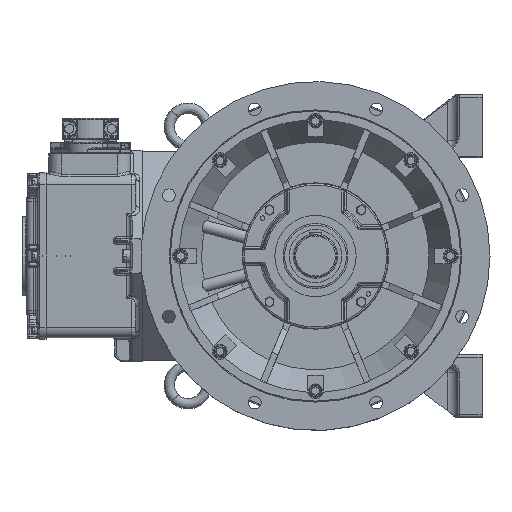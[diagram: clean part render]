
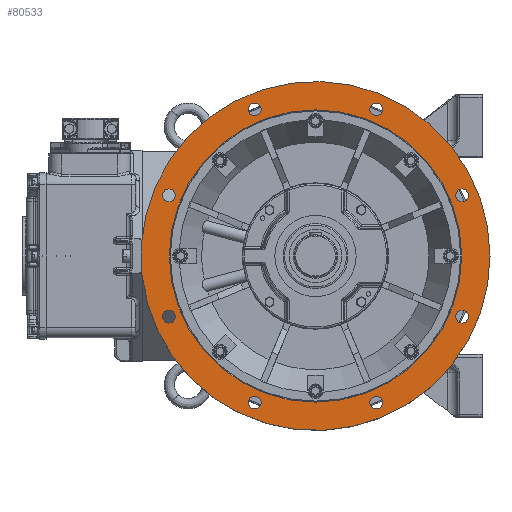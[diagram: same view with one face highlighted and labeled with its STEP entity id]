
A CAD part, left-side view. The second image highlights one B-rep face of the part: STEP entity #80533.
In plain terms, the highlighted planar face has unit normal (-1, 0, 0).
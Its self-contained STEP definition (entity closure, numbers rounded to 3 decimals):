
#19449=ORIENTED_EDGE('',*,*,#32082,.F.);
#19450=ORIENTED_EDGE('',*,*,#32084,.F.);
#19451=ORIENTED_EDGE('',*,*,#32086,.F.);
#19452=ORIENTED_EDGE('',*,*,#32088,.F.);
#19453=ORIENTED_EDGE('',*,*,#32090,.F.);
#19454=ORIENTED_EDGE('',*,*,#32092,.F.);
#19455=ORIENTED_EDGE('',*,*,#32094,.F.);
#19456=ORIENTED_EDGE('',*,*,#32096,.F.);
#19457=ORIENTED_EDGE('',*,*,#32116,.F.);
#19458=ORIENTED_EDGE('',*,*,#32117,.T.);
#32082=EDGE_CURVE('',#38969,#38969,#42816,.T.);
#32084=EDGE_CURVE('',#38971,#38971,#42818,.T.);
#32086=EDGE_CURVE('',#38973,#38973,#42820,.T.);
#32088=EDGE_CURVE('',#38975,#38975,#42822,.T.);
#32090=EDGE_CURVE('',#38977,#38977,#42824,.T.);
#32092=EDGE_CURVE('',#38979,#38979,#42826,.T.);
#32094=EDGE_CURVE('',#38981,#38981,#42828,.T.);
#32096=EDGE_CURVE('',#38983,#38983,#42830,.T.);
#32116=EDGE_CURVE('',#39003,#39003,#42850,.T.);
#32117=EDGE_CURVE('',#39004,#39004,#42851,.F.);
#38969=VERTEX_POINT('',#121616);
#38971=VERTEX_POINT('',#121621);
#38973=VERTEX_POINT('',#121626);
#38975=VERTEX_POINT('',#121631);
#38977=VERTEX_POINT('',#121636);
#38979=VERTEX_POINT('',#121641);
#38981=VERTEX_POINT('',#121646);
#38983=VERTEX_POINT('',#121651);
#39003=VERTEX_POINT('',#121709);
#39004=VERTEX_POINT('',#121711);
#42816=CIRCLE('',#85443,12.);
#42818=CIRCLE('',#85446,12.);
#42820=CIRCLE('',#85449,12.);
#42822=CIRCLE('',#85452,12.);
#42824=CIRCLE('',#85455,12.);
#42826=CIRCLE('',#85458,12.);
#42828=CIRCLE('',#85461,12.);
#42830=CIRCLE('',#85464,12.);
#42850=CIRCLE('',#85502,276.402);
#42851=CIRCLE('',#85503,330.);
#46358=EDGE_LOOP('',(#19449));
#46359=EDGE_LOOP('',(#19450));
#46360=EDGE_LOOP('',(#19451));
#46361=EDGE_LOOP('',(#19452));
#46362=EDGE_LOOP('',(#19453));
#46363=EDGE_LOOP('',(#19454));
#46364=EDGE_LOOP('',(#19455));
#46365=EDGE_LOOP('',(#19456));
#46366=EDGE_LOOP('',(#19457));
#46367=EDGE_LOOP('',(#19458));
#50438=FACE_BOUND('',#46358,.T.);
#50439=FACE_BOUND('',#46359,.T.);
#50440=FACE_BOUND('',#46360,.T.);
#50441=FACE_BOUND('',#46361,.T.);
#50442=FACE_BOUND('',#46362,.T.);
#50443=FACE_BOUND('',#46363,.T.);
#50444=FACE_BOUND('',#46364,.T.);
#50445=FACE_BOUND('',#46365,.T.);
#50446=FACE_BOUND('',#46366,.T.);
#50447=FACE_BOUND('',#46367,.T.);
#53571=PLANE('',#85501);
#80533=ADVANCED_FACE('',(#50438,#50439,#50440,#50441,#50442,#50443,#50444,
#50445,#50446,#50447),#53571,.F.);
#85443=AXIS2_PLACEMENT_3D('',#121615,#97219,#97220);
#85446=AXIS2_PLACEMENT_3D('',#121620,#97225,#97226);
#85449=AXIS2_PLACEMENT_3D('',#121625,#97231,#97232);
#85452=AXIS2_PLACEMENT_3D('',#121630,#97237,#97238);
#85455=AXIS2_PLACEMENT_3D('',#121635,#97243,#97244);
#85458=AXIS2_PLACEMENT_3D('',#121640,#97249,#97250);
#85461=AXIS2_PLACEMENT_3D('',#121645,#97255,#97256);
#85464=AXIS2_PLACEMENT_3D('',#121650,#97261,#97262);
#85501=AXIS2_PLACEMENT_3D('',#121707,#97335,#97336);
#85502=AXIS2_PLACEMENT_3D('',#121708,#97337,#97338);
#85503=AXIS2_PLACEMENT_3D('',#121710,#97339,#97340);
#97219=DIRECTION('',(-1.,0.,0.));
#97220=DIRECTION('',(0.,0.,1.));
#97225=DIRECTION('',(-1.,0.,0.));
#97226=DIRECTION('',(0.,0.,1.));
#97231=DIRECTION('',(-1.,0.,0.));
#97232=DIRECTION('',(0.,0.,1.));
#97237=DIRECTION('',(-1.,0.,0.));
#97238=DIRECTION('',(0.,0.,1.));
#97243=DIRECTION('',(-1.,0.,0.));
#97244=DIRECTION('',(0.,0.,1.));
#97249=DIRECTION('',(-1.,0.,0.));
#97250=DIRECTION('',(0.,0.,1.));
#97255=DIRECTION('',(-1.,0.,0.));
#97256=DIRECTION('',(0.,0.,1.));
#97261=DIRECTION('',(-1.,0.,0.));
#97262=DIRECTION('',(0.,0.,1.));
#97335=DIRECTION('',(1.,0.,0.));
#97336=DIRECTION('',(0.,-1.,0.));
#97337=DIRECTION('',(-1.,0.,0.));
#97338=DIRECTION('',(0.,1.,0.));
#97339=DIRECTION('',(1.,0.,0.));
#97340=DIRECTION('',(0.,-1.,0.));
#121615=CARTESIAN_POINT('',(-89.5,114.805,277.164));
#121616=CARTESIAN_POINT('',(-89.5,114.805,289.164));
#121620=CARTESIAN_POINT('',(-89.5,-114.805,277.164));
#121621=CARTESIAN_POINT('',(-89.5,-114.805,289.164));
#121625=CARTESIAN_POINT('',(-89.5,-277.164,114.805));
#121626=CARTESIAN_POINT('',(-89.5,-277.164,126.805));
#121630=CARTESIAN_POINT('',(-89.5,-277.164,-114.805));
#121631=CARTESIAN_POINT('',(-89.5,-277.164,-102.805));
#121635=CARTESIAN_POINT('',(-89.5,-114.805,-277.164));
#121636=CARTESIAN_POINT('',(-89.5,-114.805,-265.164));
#121640=CARTESIAN_POINT('',(-89.5,114.805,-277.164));
#121641=CARTESIAN_POINT('',(-89.5,114.805,-265.164));
#121645=CARTESIAN_POINT('',(-89.5,277.164,-114.805));
#121646=CARTESIAN_POINT('',(-89.5,277.164,-102.805));
#121650=CARTESIAN_POINT('',(-89.5,277.164,114.805));
#121651=CARTESIAN_POINT('',(-89.5,277.164,126.805));
#121707=CARTESIAN_POINT('',(-89.5,276.402,0.));
#121708=CARTESIAN_POINT('',(-89.5,0.,0.));
#121709=CARTESIAN_POINT('',(-89.5,276.402,0.));
#121710=CARTESIAN_POINT('',(-89.5,0.,0.));
#121711=CARTESIAN_POINT('',(-89.5,-330.,0.));
